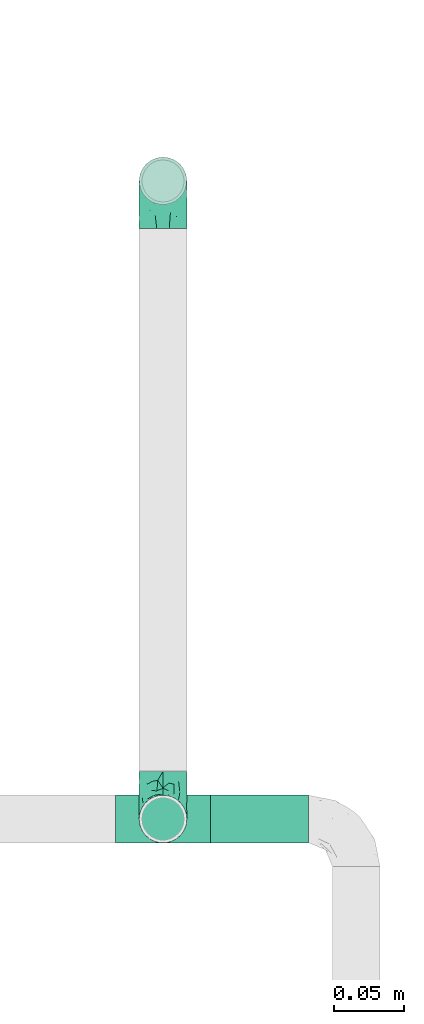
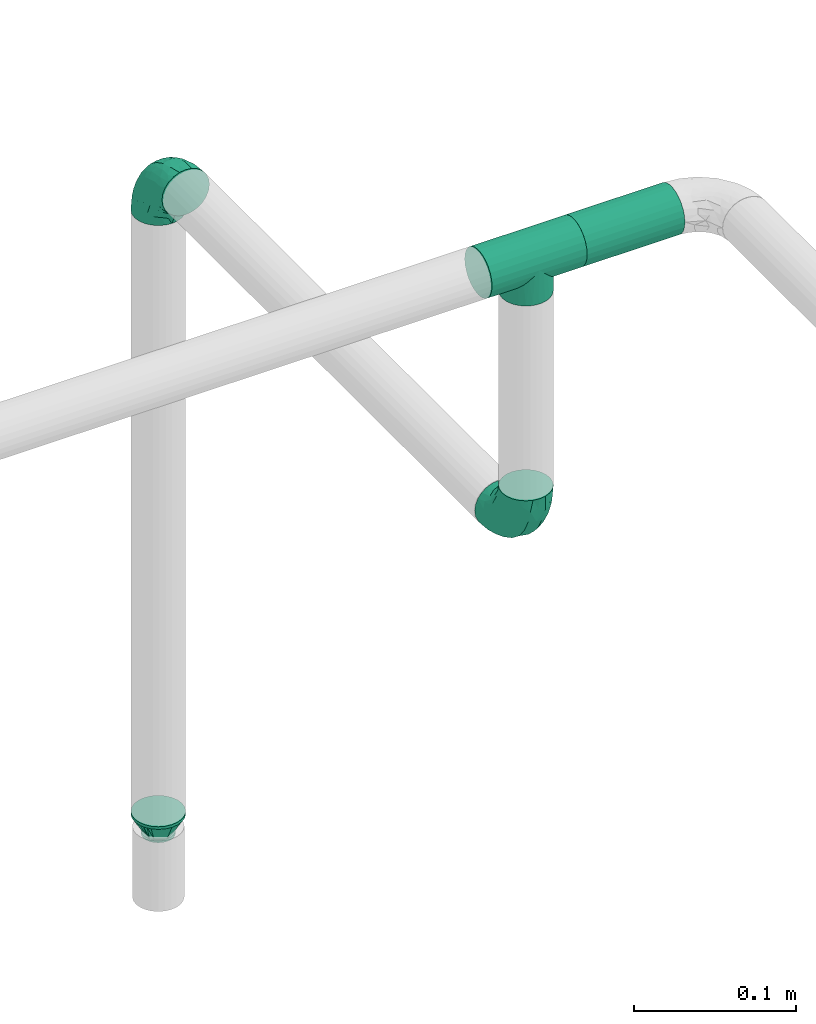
# One storey, part 60 of 94: 4 flow fittings, 1 flow segment.
"""IFC2X3 building model written with IfcOpenShell, lengths in millimetres."""

from ifc_helpers import new_model, entity, si_unit, converted_unit, derived_unit, direction, frame, origin_with_axes, origin_2d_with_axis, place, context, subcontext, project, spatial, hollow_circle, extrude, open_shell, surface_model, source, transform, mapped, type_object, element, save


model = new_model("IFC2X3")

# Units and contexts
model_context = context("Model", 3, precision=0.01, world=frame((0.0, 4.29681676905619e-09, 0.0)), true_north=direction((4.01073788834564e-13, 1.0)))
plan_context = context("Plan", 3, precision=0.01, world=frame((0.0, 4.29681676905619e-09, 0.0)), true_north=direction((4.01073788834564e-13, 1.0)))
body_context = subcontext(model_context, "Body", "Model", "MODEL_VIEW")
ifc_project = project(units=[converted_unit("PLANEANGLEUNIT", "DEGREE", entity("IfcPositiveLengthMeasure", 0.0174532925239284), si_unit("PLANEANGLEUNIT", "RADIAN"), dimensions=[0, 0, 0, 0, 0, 0, 0]), si_unit("AREAUNIT", "SQUARE_METRE"), si_unit("LENGTHUNIT", "METRE", prefix="MILLI"), si_unit("MASSUNIT", "GRAM", prefix="KILO"), si_unit("POWERUNIT", "WATT"), si_unit("PRESSUREUNIT", "PASCAL", prefix="KILO"), si_unit("FORCEUNIT", "NEWTON", prefix="KILO"), si_unit("ELECTRICVOLTAGEUNIT", "VOLT"), si_unit("ELECTRICCURRENTUNIT", "AMPERE"), si_unit("THERMODYNAMICTEMPERATUREUNIT", "DEGREE_CELSIUS"), si_unit("TIMEUNIT", "SECOND"), si_unit("VOLUMEUNIT", "CUBIC_METRE"), derived_unit("LINEARVELOCITYUNIT", [(si_unit("LENGTHUNIT", "METRE"), 1), (si_unit("TIMEUNIT", "SECOND"), -1)]), derived_unit("VOLUMETRICFLOWRATEUNIT", [(si_unit("VOLUMEUNIT", "CUBIC_METRE"), 1), (si_unit("TIMEUNIT", "SECOND"), -1)]), derived_unit("THERMALTRANSMITTANCEUNIT", [(si_unit("POWERUNIT", "WATT"), 1), (si_unit("THERMODYNAMICTEMPERATUREUNIT", "KELVIN"), -1), (si_unit("AREAUNIT", "SQUARE_METRE"), -1)]), derived_unit("SOUNDPRESSUREUNIT", [(si_unit("PRESSUREUNIT", "PASCAL"), 1)])], contexts=[model_context, plan_context])

# Site, building, storey
site_placement = place(None, frame((0.0, -4.29681676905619e-09, 0.0), z_axis=(0.0, 0.0, 1.0), x_axis=(1.0, 0.0, 0.0)))
site = spatial("IfcSite", under=ifc_project, at=site_placement, CompositionType="ELEMENT")
building_placement = place(site_placement, frame((0.0, 4.29681676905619e-09, 0.0), z_axis=(0.0, 0.0, 1.0), x_axis=(1.0, 0.0, 0.0)))
building = spatial("IfcBuilding", under=site, at=building_placement, Name="mc-building", CompositionType="ELEMENT")
storey_placement = place(building_placement, frame((0.0, 0.0, 210900.0), z_axis=(0.0, 0.0, 1.0), x_axis=(1.0, 0.0, 0.0)))
storey = spatial("IfcBuildingStorey", under=building, at=storey_placement, Name="Nivå F", CompositionType="ELEMENT", Elevation=210900.0)

# Flow fittings
pipe_fitting_type_1 = type_object("IfcPipeFittingType", Name="magi_pipe_fe_tee_centric_90_NOR", PredefinedType="JUNCTION")
shared_shape_1 = source(origin_with_axes(), body_context, "Body", "SurfaceModel", [
    surface_model("IfcShellBasedSurfaceModel", [(-33.8, 4.37404, -16.32415), (-33.8, 0.0, -16.9), (-33.8, 16.32415, -4.37404), (-33.8, 8.45, -14.63583), (-33.8, 11.9501, -11.9501), (-33.8, 14.63583, -8.45), (-33.8, -16.9, 0.0), (-33.8, -11.9501, -11.9501), (-33.8, -14.63583, -8.45), (-33.8, -8.45, -14.63583), (-33.8, -4.37404, -16.32415), (-33.8, -16.32415, -4.37404), (-33.8, 14.63583, 8.45), (-33.8, 16.32415, 4.37404), (-33.8, -8.45, 14.63583), (-33.8, 8.45, 14.63583), (-33.8, 11.9501, 11.9501), (-33.8, 4.37404, 16.32415), (-33.8, 0.0, 16.9), (-33.8, -11.9501, 11.9501), (-33.8, -14.63583, 8.45), (-33.8, -16.32415, 4.37404), (-33.8, -4.37404, 16.32415), (-33.8, 16.9, 0.0), (33.8, 4.37404, -16.32415), (33.8, -16.9, 0.0), (33.8, 0.0, -16.9), (33.8, 14.63583, -8.45), (33.8, 8.45, -14.63583), (33.8, 16.32415, -4.37404), (33.8, 11.9501, -11.9501), (33.8, -16.32415, 4.37404), (33.8, -8.45, -14.63583), (33.8, -4.37404, -16.32415), (33.8, -11.9501, -11.9501), (33.8, -14.63583, -8.45), (33.8, -16.32415, -4.37404), (33.8, 16.32415, 4.37404), (33.8, 8.45, 14.63583), (33.8, 14.63583, 8.45), (33.8, 11.9501, 11.9501), (33.8, -8.45, 14.63583), (33.8, 4.37404, 16.32415), (33.8, -14.63583, 8.45), (33.8, -11.9501, 11.9501), (33.8, 0.0, 16.9), (33.8, -4.37404, 16.32415), (33.8, 16.9, 0.0), (16.28698, -16.28698, 4.51047), (16.9, -16.9, 0.0), (14.62704, -14.62704, 8.4652), (9.47213, -9.47213, 13.99602), (12.26343, -12.26343, 11.62834), (-16.9, -16.9, 0.0), (-16.28698, -16.28698, 4.51047), (-14.62704, -14.62704, 8.4652), (-12.26343, -12.26343, 11.62834), (-9.47213, -9.47213, 13.99602), (-6.42894, -6.42894, 15.62942), (6.42894, -6.42894, 15.62942), (3.24522, -3.24522, 16.58549), (0.0, 0.0, 16.9), (-3.24522, -3.24522, 16.58549), (3.24522, -3.24522, -16.58549), (0.0, 0.0, -16.9), (-3.24522, -3.24522, -16.58549), (-6.42894, -6.42894, -15.62942), (6.42894, -6.42894, -15.62942), (9.47213, -9.47213, -13.99602), (12.26343, -12.26343, -11.62834), (14.62704, -14.62704, -8.4652), (16.28698, -16.28698, -4.51047), (-9.47213, -9.47213, -13.99602), (-12.26343, -12.26343, -11.62834), (-16.28698, -16.28698, -4.51047), (-14.62704, -14.62704, -8.4652), (4.37404, -25.35, -16.32415), (-16.9, -25.35, 0.0), (0.0, -25.35, -16.9), (14.63583, -25.35, -8.45), (8.45, -25.35, -14.63583), (16.32415, -25.35, -4.37404), (11.9501, -25.35, -11.9501), (-11.9501, -25.35, -11.9501), (-8.45, -25.35, -14.63583), (-4.37404, -25.35, -16.32415), (-14.63583, -25.35, -8.45), (-16.32415, -25.35, -4.37404), (16.9, -25.35, 0.0), (8.45, -25.35, 14.63583), (16.32415, -25.35, 4.37404), (14.63583, -25.35, 8.45), (-8.45, -25.35, 14.63583), (11.9501, -25.35, 11.9501), (4.37404, -25.35, 16.32415), (-16.32415, -25.35, 4.37404), (-11.9501, -25.35, 11.9501), (-14.63583, -25.35, 8.45), (0.0, -25.35, 16.9), (-4.37404, -25.35, 16.32415)], [open_shell([[[0, 1, 2]], [[3, 0, 4]], [[0, 2, 5]], [[4, 0, 5]], [[6, 2, 1]], [[7, 8, 9]], [[1, 10, 9]], [[11, 6, 8]], [[1, 9, 8]], [[1, 8, 6]], [[6, 12, 2]], [[12, 13, 2]], [[14, 12, 6]], [[12, 14, 15]], [[16, 12, 15]], [[17, 15, 18]], [[19, 14, 20]], [[21, 20, 14]], [[22, 18, 14]], [[14, 6, 21]], [[14, 18, 15]], [[23, 2, 13]], [[24, 25, 26]], [[27, 24, 28]], [[27, 29, 24]], [[27, 28, 30]], [[31, 25, 24]], [[26, 32, 33]], [[26, 34, 32]], [[35, 25, 36]], [[35, 34, 26]], [[25, 35, 26]], [[24, 29, 31]], [[29, 37, 38]], [[38, 37, 39]], [[38, 31, 29]], [[38, 39, 40]], [[41, 38, 42]], [[43, 41, 44]], [[41, 43, 31]], [[41, 45, 46]], [[41, 31, 38]], [[42, 45, 41]], [[29, 47, 37]], [[31, 43, 48]], [[25, 31, 49]], [[49, 31, 48]], [[43, 50, 48]], [[44, 41, 51]], [[50, 43, 52]], [[51, 52, 44]], [[52, 43, 44]], [[53, 54, 21]], [[53, 21, 6]], [[21, 54, 20]], [[54, 55, 20]], [[56, 57, 19]], [[19, 20, 56]], [[19, 57, 14]], [[56, 20, 55]], [[14, 57, 58]], [[51, 41, 59]], [[60, 45, 61]], [[59, 46, 60]], [[46, 59, 41]], [[60, 46, 45]], [[61, 45, 42]], [[39, 37, 13]], [[16, 38, 40]], [[12, 40, 39]], [[42, 38, 15]], [[23, 37, 47]], [[62, 61, 18]], [[62, 22, 58]], [[22, 62, 18]], [[58, 22, 14]], [[61, 17, 18]], [[42, 17, 61]], [[15, 17, 42]], [[15, 38, 16]], [[12, 16, 40]], [[13, 12, 39]], [[37, 23, 13]], [[5, 27, 30]], [[23, 47, 29]], [[30, 28, 3]], [[27, 2, 29]], [[26, 33, 63]], [[26, 64, 24]], [[64, 26, 63]], [[28, 24, 0]], [[64, 0, 24]], [[4, 30, 3]], [[2, 27, 5]], [[5, 30, 4]], [[2, 23, 29]], [[65, 66, 10]], [[1, 0, 64]], [[1, 65, 10]], [[66, 9, 10]], [[0, 3, 28]], [[1, 64, 65]], [[63, 33, 67]], [[32, 34, 68]], [[69, 68, 34]], [[35, 70, 69]], [[69, 34, 35]], [[32, 68, 67]], [[36, 25, 49]], [[36, 71, 35]], [[71, 36, 49]], [[35, 71, 70]], [[72, 9, 66]], [[72, 7, 9]], [[7, 72, 73]], [[7, 73, 8]], [[74, 53, 11]], [[75, 74, 8]], [[74, 11, 8]], [[11, 53, 6]], [[75, 8, 73]], [[32, 67, 33]], [[76, 77, 78]], [[79, 76, 80]], [[79, 81, 76]], [[79, 80, 82]], [[77, 76, 81]], [[78, 83, 84]], [[84, 85, 78]], [[86, 77, 87]], [[83, 78, 86]], [[77, 86, 78]], [[81, 88, 77]], [[89, 88, 90]], [[89, 90, 91]], [[92, 77, 89]], [[89, 91, 93]], [[92, 89, 94]], [[95, 96, 97]], [[96, 95, 92]], [[92, 98, 99]], [[95, 77, 92]], [[94, 98, 92]], [[89, 77, 88]], [[77, 95, 53]], [[54, 53, 95]], [[97, 96, 56]], [[96, 92, 57]], [[95, 97, 54]], [[58, 92, 99]], [[55, 54, 97]], [[56, 55, 97]], [[58, 57, 92]], [[98, 61, 62]], [[58, 99, 62]], [[56, 96, 57]], [[62, 99, 98]], [[94, 60, 98]], [[89, 59, 94]], [[91, 90, 48]], [[52, 93, 91]], [[93, 51, 89]], [[49, 90, 88]], [[59, 60, 94]], [[51, 59, 89]], [[49, 48, 90]], [[50, 52, 91]], [[48, 50, 91]], [[51, 93, 52]], [[98, 60, 61]], [[88, 81, 49]], [[71, 49, 81]], [[79, 82, 69]], [[82, 80, 68]], [[81, 79, 71]], [[67, 80, 76]], [[70, 71, 79]], [[69, 70, 79]], [[67, 68, 80]], [[78, 64, 63]], [[67, 76, 63]], [[69, 82, 68]], [[63, 76, 78]], [[85, 65, 78]], [[84, 66, 85]], [[86, 87, 74]], [[86, 73, 83]], [[72, 84, 83]], [[53, 87, 77]], [[66, 65, 85]], [[72, 66, 84]], [[53, 74, 87]], [[75, 73, 86]], [[74, 75, 86]], [[72, 83, 73]], [[78, 65, 64]]])]),
])
flow_fitting_1_placement = place(storey_placement, frame((728000.0, 436948.06941, 3500.0), z_axis=(0.0, -1.0, 0.0), x_axis=(1.0, 0.0, 0.0)))
element("IfcFlowFitting", 1, at=flow_fitting_1_placement, inside=storey, type_object=pipe_fitting_type_1, Name="magi_pipe_fe_tee_centric_90_NOR", context=body_context, shape_type="MappedRepresentation", body=[
    mapped(shared_shape_1, transform((0.0, 0.0, 0.0), scale=1.0)),
])
pipe_fitting_type_2 = type_object("IfcPipeFittingType", Name="magi_pipe_fe_elbow_short_001", PredefinedType="BEND")
shared_shape_2 = source(origin_with_axes(), body_context, "Body", "SurfaceModel", [
    surface_model("IfcShellBasedSurfaceModel", [(-33.8, 8.45, -14.63583), (-33.8, 4.37404, -16.32415), (-33.8, 11.9501, -11.9501), (-33.8, -11.9501, -11.9501), (-33.8, -14.63583, -8.45), (-33.8, -8.45, -14.63583), (-33.8, 0.0, -16.9), (-33.8, -4.37404, -16.32415), (-33.8, -4.37404, 16.32415), (-33.8, 0.0, 16.9), (-33.8, -8.45, 14.63583), (-33.8, 16.32415, -4.37404), (-33.8, 14.63583, -8.45), (-33.8, -16.32415, -4.37404), (-33.8, -16.9, 0.0), (-33.8, -16.32415, 4.37404), (-33.8, 11.9501, 11.9501), (-33.8, 14.63583, 8.45), (-33.8, 16.32415, 4.37404), (-33.8, 4.37404, 16.32415), (-33.8, 8.45, 14.63583), (-33.8, -14.63583, 8.45), (-33.8, -11.9501, 11.9501), (-33.8, 16.9, 0.0), (-11.9501, 33.8, -11.9501), (0.0, 33.8, -16.9), (-4.37404, 33.8, -16.32415), (-8.45, 33.8, -14.63583), (-14.63583, 33.8, -8.45), (-16.32415, 33.8, -4.37404), (14.63583, 33.8, -8.45), (8.45, 33.8, 14.63583), (16.32415, 33.8, -4.37404), (8.45, 33.8, -14.63583), (11.9501, 33.8, -11.9501), (4.37404, 33.8, -16.32415), (16.32415, 33.8, 4.37404), (16.9, 33.8, 0.0), (-11.9501, 33.8, 11.9501), (-16.32415, 33.8, 4.37404), (-14.63583, 33.8, 8.45), (-8.45, 33.8, 14.63583), (-4.37404, 33.8, 16.32415), (11.9501, 33.8, 11.9501), (14.63583, 33.8, 8.45), (0.0, 33.8, 16.9), (4.37404, 33.8, 16.32415), (-16.9, 33.8, 0.0), (-24.79389, -13.12945, 9.48721), (-22.19287, -9.75018, 12.59315), (-24.09897, -14.97035, 0.0), (-14.93934, -10.76256, 8.5297), (-22.46095, -14.75051, 5.27077), (14.75051, 22.46094, 5.27077), (11.9251, 13.23888, 4.33236), (13.04069, 14.39795, 0.0), (7.71387, 13.68847, 11.55891), (9.75018, 22.19287, 12.59315), (4.10169, 13.0571, 14.04018), (-24.84007, -6.39063, 15.2048), (-25.81779, -2.23879, 16.61097), (-23.66549, 2.59054, 16.87119), (-26.50418, 14.06512, 11.08152), (-24.21253, 17.66365, 7.72657), (-29.58514, 15.86957, 7.00283), (-6.17382, -7.5455, 0.0), (-13.23888, -11.9251, 4.33236), (-14.39795, -13.04069, 0.0), (-17.81434, 18.87373, 11.97104), (-6.30846, 29.15138, 15.82987), (-2.31622, 25.28002, 16.85849), (-29.23923, 10.23435, 13.77053), (-1.45439, -2.85688, 7.61475), (-0.28326, 0.34872, 10.09509), (-5.74484, -4.04709, 10.4122), (-4.41137, 11.31918, 16.59407), (-8.39727, 3.10034, 15.7812), (-1.72649, 9.1306, 15.53089), (-17.39909, 24.75344, 7.64977), (-26.19233, 20.0512, 0.0), (-28.14518, 17.29657, 4.25857), (-26.05147, 6.6281, 15.96447), (-5.87354, 16.61944, 16.86968), (-12.51807, 12.51807, 16.48937), (-10.06312, 7.38516, 16.81295), (-3.01882, 3.01882, 13.81718), (-13.0571, -4.10169, 14.04018), (-16.82553, -0.15166, 16.38038), (10.76256, 14.93934, 8.5297), (13.12945, 24.79389, 9.48721), (6.39063, 24.84007, 15.2048), (2.23879, 25.81779, 16.61097), (-13.68847, -7.71387, 11.55891), (14.97035, 24.09897, 0.0), (-7.30894, 22.89991, 16.09489), (-10.67958, 26.17414, 14.008), (-12.78295, 18.26924, 15.06066), (-13.88562, 22.45231, 12.93244), (-18.04944, 15.16501, 14.04434), (-23.11658, 20.08178, 4.02986), (-21.84989, 21.84989, 0.0), (-18.55817, 25.48277, 3.93065), (-13.95142, 26.94732, 11.03289), (-18.57098, 7.23906, 16.59756), (-16.58335, 4.14122, 16.89279), (-17.96666, 11.46709, 15.63151), (-9.84453, 17.54304, 16.18938), (0.15166, 16.82553, 16.38038), (-23.27207, 11.47201, 14.23154), (3.84842, 5.86994, 10.70473), (-8.0212, -7.54413, 7.93275), (1.00345, -2.19508, 4.57414), (5.13203, 3.01004, 5.90201), (5.24161, 1.7543, 2.53265), (8.70457, 7.04947, 3.99182), (-20.0512, 26.19233, 0.0), (8.4852, 8.76699, 7.09296), (-4.55488, -6.72064, 4.90681), (2.05031, -2.05031, 0.0), (7.5455, 6.17382, 0.0), (-26.75399, 2.1369, -16.845), (-14.61995, 24.73803, -11.27736), (-28.45274, -13.45335, -9.81895), (-26.00469, 6.63555, -15.96645), (-23.06726, 20.04573, -4.26202), (-13.80647, -4.26506, -14.17873), (-14.67501, -0.21081, -16.07388), (-6.7902, -0.2828, -13.8478), (-24.53586, 11.08096, -14.13417), (-26.72048, 14.00837, -11.05776), (10.0967, 24.44989, -12.75976), (5.83237, 21.40218, -15.03047), (6.66249, 28.54238, -15.38093), (-20.38182, 15.48705, -12.74596), (12.53268, 21.23441, -9.15363), (12.54494, 15.67504, -5.54878), (9.7522, 12.89279, -8.66343), (-15.65186, 19.64213, -13.01327), (-12.03528, 20.66498, -14.67665), (-15.61907, 15.61906, -14.83879), (-25.56551, -15.26206, 0.0), (-24.65452, -15.12934, -5.50955), (13.45335, 28.45274, -9.81895), (15.12934, 24.65452, -5.50955), (-7.35442, -8.31014, -5.65563), (-15.67504, -12.54494, -5.54878), (-24.44989, -10.0967, -12.75976), (0.16522, 0.41303, -9.71728), (-5.70658, -5.33066, -8.89288), (-5.13869, -2.37198, -11.53565), (-21.23441, -12.53268, -9.15363), (0.71146, 7.93863, -14.09382), (0.21081, 14.67501, -16.07388), (3.49291, 14.42772, -14.76381), (-24.89911, -2.13088, -16.591), (-28.54238, -6.66249, -15.38093), (-18.44386, -7.71663, -13.26957), (2.13088, 24.89911, -16.591), (-28.64342, 17.44413, -2.89318), (1.70017, -1.28722, -5.09504), (-16.57067, 26.81947, -7.36596), (-17.69055, 27.4263, -3.76405), (-12.89279, -9.7522, -8.66343), (-5.96611, 5.96611, -15.95814), (-20.53709, 20.09345, -8.28985), (-2.1369, 26.75399, -16.845), (-6.89872, 24.58781, -16.02578), (-10.60739, 26.53157, -13.98044), (-21.40218, -5.83237, -15.03047), (2.93192, 5.89627, -11.55917), (6.89393, 12.61842, -11.82233), (5.58056, 5.95325, -8.79455), (-3.99512, 18.61798, -16.89635), (8.31014, 7.35442, -5.65563), (-9.1383, 9.86148, -16.89041), (-9.99983, 16.02119, -16.39699), (-16.68576, 9.78031, -16.34199), (-27.01915, 16.61158, -7.12979), (15.26206, 25.56551, 0.0), (-18.61798, 3.99512, -16.89635), (-19.37495, 27.82495, 0.0), (-12.61842, -6.89393, -11.82233), (-18.84705, 19.14018, -10.96545)], [open_shell([[[0, 1, 2]], [[3, 4, 5]], [[6, 7, 5]], [[8, 9, 10]], [[1, 6, 2]], [[11, 12, 2]], [[4, 2, 6]], [[2, 13, 10]], [[5, 4, 6]], [[2, 4, 13]], [[14, 15, 13]], [[11, 2, 16]], [[11, 17, 18]], [[11, 16, 17]], [[19, 20, 16]], [[16, 2, 10]], [[19, 16, 10]], [[21, 22, 15]], [[22, 13, 15]], [[22, 10, 13]], [[10, 9, 19]], [[11, 18, 23]], [[24, 25, 26]], [[24, 26, 27]], [[24, 28, 29]], [[25, 24, 30]], [[31, 32, 24]], [[33, 30, 34]], [[33, 35, 25]], [[25, 30, 33]], [[32, 30, 24]], [[32, 36, 37]], [[38, 24, 29]], [[39, 40, 29]], [[40, 38, 29]], [[38, 41, 42]], [[38, 31, 24]], [[31, 38, 42]], [[36, 43, 44]], [[36, 32, 43]], [[31, 45, 46]], [[32, 31, 43]], [[42, 45, 31]], [[39, 29, 47]], [[22, 48, 49]], [[15, 14, 50]], [[51, 48, 52]], [[53, 54, 55]], [[48, 22, 21]], [[15, 52, 21]], [[56, 57, 58]], [[49, 10, 22]], [[49, 59, 10]], [[9, 60, 61]], [[62, 63, 64]], [[65, 66, 67]], [[57, 43, 31]], [[62, 68, 63]], [[42, 69, 70]], [[20, 71, 16]], [[8, 60, 9]], [[72, 73, 74]], [[75, 76, 77]], [[16, 62, 17]], [[40, 39, 78]], [[79, 23, 80]], [[64, 18, 17]], [[9, 61, 19]], [[19, 81, 20]], [[82, 83, 84]], [[74, 85, 86]], [[59, 86, 87]], [[88, 89, 57]], [[90, 31, 46]], [[44, 53, 36]], [[46, 45, 91]], [[54, 53, 88]], [[44, 89, 53]], [[92, 86, 49]], [[89, 44, 43]], [[10, 59, 8]], [[53, 55, 93]], [[93, 36, 53]], [[66, 52, 67]], [[94, 82, 70]], [[95, 96, 94]], [[97, 98, 96]], [[79, 99, 100]], [[41, 38, 95]], [[101, 100, 99]], [[68, 78, 63]], [[42, 41, 69]], [[23, 18, 80]], [[95, 94, 69]], [[78, 101, 99]], [[38, 102, 95]], [[70, 45, 42]], [[97, 95, 102]], [[15, 50, 52]], [[90, 57, 31]], [[57, 90, 58]], [[81, 19, 61]], [[103, 104, 84]], [[105, 81, 103]], [[38, 40, 102]], [[106, 96, 83]], [[94, 106, 82]], [[91, 70, 107]], [[71, 62, 16]], [[62, 108, 98]], [[86, 59, 49]], [[67, 52, 50]], [[60, 59, 87]], [[92, 49, 51]], [[86, 85, 76]], [[91, 90, 46]], [[37, 36, 93]], [[107, 77, 58]], [[107, 58, 90]], [[58, 85, 109]], [[110, 74, 92]], [[72, 74, 110]], [[66, 51, 52]], [[72, 111, 112]], [[113, 114, 112]], [[56, 88, 57]], [[52, 48, 21]], [[49, 48, 51]], [[57, 89, 43]], [[53, 89, 88]], [[103, 81, 61]], [[71, 81, 108]], [[18, 64, 80]], [[63, 78, 99]], [[47, 115, 101]], [[101, 115, 100]], [[40, 78, 102]], [[68, 102, 78]], [[97, 96, 95]], [[105, 98, 108]], [[103, 84, 83]], [[107, 70, 82]], [[76, 84, 87]], [[82, 84, 75]], [[70, 91, 45]], [[90, 91, 107]], [[59, 60, 8]], [[61, 60, 87]], [[73, 85, 74]], [[109, 112, 116]], [[103, 61, 104]], [[105, 103, 83]], [[96, 105, 83]], [[81, 105, 108]], [[96, 98, 105]], [[62, 98, 68]], [[61, 87, 104]], [[87, 84, 104]], [[86, 76, 87]], [[77, 76, 85]], [[58, 77, 85]], [[75, 77, 107]], [[82, 75, 107]], [[76, 75, 84]], [[81, 71, 20]], [[62, 71, 108]], [[95, 69, 41]], [[70, 69, 94]], [[62, 64, 17]], [[80, 63, 99]], [[63, 80, 64]], [[80, 99, 79]], [[66, 65, 117]], [[110, 66, 117]], [[112, 114, 116]], [[118, 117, 65]], [[110, 92, 51]], [[112, 111, 113]], [[119, 55, 54]], [[74, 86, 92]], [[58, 109, 56]], [[116, 56, 109]], [[66, 110, 51]], [[72, 110, 117]], [[111, 72, 117]], [[73, 112, 109]], [[117, 118, 111]], [[113, 111, 118]], [[118, 119, 113]], [[114, 119, 54]], [[119, 114, 113]], [[116, 54, 88]], [[54, 116, 114]], [[116, 88, 56]], [[112, 73, 72]], [[85, 73, 109]], [[78, 39, 101]], [[47, 101, 39]], [[102, 68, 97]], [[97, 68, 98]], [[82, 106, 83]], [[94, 96, 106]], [[1, 120, 6]], [[28, 24, 121]], [[3, 122, 4]], [[0, 123, 1]], [[100, 124, 79]], [[125, 126, 127]], [[128, 2, 129]], [[130, 131, 132]], [[128, 129, 133]], [[134, 135, 136]], [[137, 138, 139]], [[128, 0, 2]], [[67, 140, 141]], [[134, 142, 143]], [[141, 13, 4]], [[144, 65, 145]], [[146, 3, 5]], [[147, 148, 149]], [[145, 141, 150]], [[151, 152, 153]], [[154, 7, 6]], [[5, 155, 146]], [[150, 146, 156]], [[155, 5, 7]], [[143, 135, 134]], [[35, 157, 25]], [[23, 79, 158]], [[148, 159, 144]], [[160, 161, 29]], [[145, 162, 144]], [[163, 152, 151]], [[29, 28, 160]], [[121, 164, 160]], [[33, 34, 130]], [[25, 165, 26]], [[26, 165, 166]], [[142, 34, 30]], [[24, 27, 167]], [[124, 161, 164]], [[157, 35, 132]], [[155, 154, 168]], [[123, 0, 128]], [[169, 170, 171]], [[172, 157, 152]], [[26, 166, 27]], [[132, 35, 33]], [[142, 130, 34]], [[168, 154, 126]], [[136, 135, 173]], [[133, 137, 139]], [[2, 12, 129]], [[170, 131, 130]], [[30, 32, 143]], [[172, 174, 175]], [[176, 123, 128]], [[158, 177, 11]], [[135, 55, 119]], [[167, 27, 166]], [[175, 166, 172]], [[137, 167, 138]], [[122, 141, 4]], [[140, 14, 13]], [[32, 37, 178]], [[170, 130, 134]], [[152, 157, 131]], [[165, 157, 172]], [[153, 170, 151]], [[152, 163, 174]], [[168, 125, 156]], [[122, 146, 150]], [[120, 154, 6]], [[179, 174, 126]], [[179, 126, 154]], [[126, 163, 127]], [[162, 145, 150]], [[140, 13, 141]], [[32, 178, 143]], [[55, 143, 178]], [[177, 129, 12]], [[128, 133, 139]], [[176, 128, 139]], [[120, 123, 179]], [[121, 160, 28]], [[161, 100, 180]], [[166, 175, 138]], [[121, 24, 167]], [[161, 47, 29]], [[79, 124, 158]], [[124, 164, 177]], [[161, 124, 100]], [[136, 171, 170]], [[127, 163, 151]], [[147, 171, 159]], [[148, 144, 162]], [[127, 151, 169]], [[127, 181, 125]], [[129, 177, 164]], [[12, 11, 177]], [[159, 65, 144]], [[67, 141, 145]], [[143, 55, 135]], [[135, 119, 173]], [[123, 120, 1]], [[154, 120, 179]], [[157, 165, 25]], [[166, 165, 172]], [[172, 152, 174]], [[176, 139, 175]], [[126, 174, 163]], [[176, 174, 179]], [[174, 176, 175]], [[123, 176, 179]], [[150, 181, 162]], [[127, 149, 181]], [[181, 148, 162]], [[159, 148, 147]], [[171, 136, 173]], [[170, 134, 136]], [[159, 171, 173]], [[171, 147, 169]], [[169, 147, 149]], [[151, 170, 169]], [[164, 182, 129]], [[182, 121, 137]], [[181, 149, 148]], [[169, 149, 127]], [[182, 137, 133]], [[167, 137, 121]], [[166, 138, 167]], [[175, 139, 138]], [[129, 182, 133]], [[121, 182, 164]], [[161, 160, 164]], [[47, 161, 180]], [[177, 158, 124]], [[23, 158, 11]], [[130, 132, 33]], [[157, 132, 131]], [[143, 142, 30]], [[130, 142, 134]], [[154, 155, 7]], [[146, 155, 168]], [[146, 122, 3]], [[141, 122, 150]], [[152, 131, 153]], [[159, 119, 118]], [[67, 145, 65]], [[170, 153, 131]], [[119, 159, 173]], [[159, 118, 65]], [[156, 125, 181]], [[126, 125, 168]], [[150, 156, 181]], [[168, 156, 146]]])]),
])
for number, where, z_axis, x_axis, name in (
    (2, (728000.0, 437400.7, 3294.49074000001), (1.0, 0.0, 0.0), (0.0, 0.0, 1.0), "magi_pipe_fe_elbow_short_001"),
    (3, (728000.0, 436948.06941, 3294.49074000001), (1.0, 0.0, 0.0), (0.0, 0.0, -1.0), "magi_pipe_fe_elbow_short_001"),
):
    element("IfcFlowFitting", number, at=place(storey_placement, frame(where, z_axis=z_axis, x_axis=x_axis)), inside=storey, type_object=pipe_fitting_type_2, Name=name, context=body_context, shape_type="MappedRepresentation", body=[
        mapped(shared_shape_2, transform((0.0, 0.0, 0.0), scale=1.0)),
    ])
pipe_fitting_type_3 = type_object("IfcPipeFittingType", Name="magi_pipe_fe_reducer_centric_short_NOR", PredefinedType="TRANSITION")
shared_shape_3 = source(origin_with_axes(), body_context, "Body", "SurfaceModel", [
    surface_model("IfcShellBasedSurfaceModel", [(14.4, -11.9501, -11.9501), (14.4, -8.45, -14.63583), (14.4, -4.37404, -16.32415), (14.4, 8.45, -14.63583), (14.4, 16.9, 0.0), (14.4, -14.63583, -8.45), (14.4, -16.32415, -4.37404), (14.4, -4.37404, 16.32415), (14.4, 4.37404, -16.32415), (14.4, 0.0, -16.9), (14.4, 14.63583, -8.45), (14.4, 16.32415, -4.37404), (14.4, 11.9501, -11.9501), (14.4, -16.32415, 4.37404), (14.4, -16.9, 0.0), (14.4, -11.9501, 11.9501), (14.4, -14.63583, 8.45), (14.4, -8.45, 14.63583), (14.4, 0.0, 16.9), (14.4, 16.32415, 4.37404), (14.4, 14.63583, 8.45), (14.4, 11.9501, 11.9501), (14.4, 8.45, 14.63583), (14.4, 4.37404, 16.32415), (12.4, 0.0, 16.9), (12.4, 14.63583, 8.45), (12.4, -4.37404, 16.32415), (12.4, -8.45, 14.63583), (12.4, -16.32415, 4.37404), (12.4, -14.63583, 8.45), (12.4, -11.9501, 11.9501), (12.4, 11.9501, 11.9501), (12.4, 8.45, 14.63583), (12.4, 4.37404, 16.32415), (12.4, 16.32415, 4.37404), (12.4, 16.9, 0.0), (12.4, 16.32415, -4.37404), (12.4, 8.45, -14.63583), (12.4, -11.9501, -11.9501), (12.4, -16.32415, -4.37404), (12.4, -14.63583, -8.45), (12.4, -4.37404, -16.32415), (12.4, -8.45, -14.63583), (12.4, 14.63583, -8.45), (12.4, 11.9501, -11.9501), (12.4, 4.37404, -16.32415), (12.4, 0.0, -16.9), (12.4, -16.9, 0.0), (-2.0, 0.0, 10.7), (-2.0, 10.33541, -2.76936), (-2.0, -2.76936, 10.33541), (-2.0, -5.35, 9.26647), (-2.0, -10.33541, 2.76936), (-2.0, -9.26647, 5.35), (-2.0, -7.56604, 7.56604), (-2.0, 10.33541, 2.76936), (-2.0, 5.35, 9.26647), (-2.0, 7.56604, 7.56604), (-2.0, 2.76936, 10.33541), (-2.0, 9.26647, 5.35), (-2.0, 10.7, 0.0), (-2.0, -10.33541, -2.76936), (-2.0, -9.26647, -5.35), (-2.0, -7.56604, -7.56604), (-2.0, -5.35, -9.26647), (-2.0, -2.76936, -10.33541), (-2.0, 9.26647, -5.35), (-2.0, 7.56604, -7.56604), (-2.0, 5.35, -9.26647), (-2.0, 2.76936, -10.33541), (-2.0, 0.0, -10.7), (-2.0, -10.7, 0.0), (0.0, -2.76936, -10.33541), (0.0, 0.0, -10.7), (0.0, -5.35, -9.26647), (0.0, -7.56604, -7.56604), (0.0, -10.33541, -2.76936), (0.0, 10.33541, -2.76936), (0.0, -9.26647, -5.35), (0.0, 0.0, 10.7), (0.0, 2.76936, -10.33541), (0.0, 5.35, -9.26647), (0.0, 9.26647, -5.35), (0.0, 7.56604, -7.56604), (0.0, -10.33541, 2.76936), (0.0, -10.7, 0.0), (0.0, -7.56604, 7.56604), (0.0, -9.26647, 5.35), (0.0, -2.76936, 10.33541), (0.0, -5.35, 9.26647), (0.0, 7.56604, 7.56604), (0.0, 9.26647, 5.35), (0.0, 10.33541, 2.76936), (0.0, 10.7, 0.0), (0.0, 5.35, 9.26647), (0.0, 2.76936, 10.33541), (12.4, -2.98753, -15.66253), (12.4, -5.97505, -14.42505), (0.0, -2.675, -9.26647), (12.4, 15.66253, -2.98753), (12.4, 14.42505, -5.97505), (0.0, 9.3625, -2.31662), (0.0, 2.675, -9.26647), (12.4, 5.97505, -14.42505), (12.4, 8.96258, -13.18758), (0.0, 6.6875, -6.94985), (12.4, -14.42505, -5.97505), (12.4, -15.66253, -2.98753), (0.0, -9.3625, -2.31662), (0.0, 8.025, -4.63324), (12.4, 13.18758, -8.96258), (12.4, 2.98753, -15.66253), (0.0, -6.6875, -6.94985), (12.4, -13.18758, -8.96258), (12.4, -8.96258, -13.18758), (0.0, 0.0, -9.26647), (0.0, -8.025, -4.63324), (12.4, 2.98753, 15.66253), (12.4, 5.97505, 14.42505), (0.0, 2.675, 9.26647), (12.4, -15.66253, 2.98753), (12.4, -14.42505, 5.97505), (0.0, -9.3625, 2.31662), (0.0, -2.675, 9.26647), (12.4, -5.97505, 14.42505), (12.4, -8.96258, 13.18758), (0.0, -6.6875, 6.94985), (12.4, 14.42505, 5.97505), (12.4, 15.66253, 2.98753), (0.0, 9.3625, 2.31662), (0.0, -8.025, 4.63324), (12.4, -13.18758, 8.96258), (12.4, -2.98753, 15.66253), (0.0, 6.6875, 6.94985), (12.4, 13.18758, 8.96258), (12.4, 8.96258, 13.18758), (0.0, 0.0, 9.26647), (0.0, 8.025, 4.63324)], [open_shell([[[0, 1, 2]], [[0, 2, 3]], [[3, 4, 0]], [[5, 0, 6]], [[0, 7, 6]], [[8, 3, 9]], [[3, 2, 9]], [[10, 11, 12]], [[3, 12, 11]], [[11, 4, 3]], [[13, 14, 6]], [[15, 16, 13]], [[7, 15, 13]], [[0, 4, 7]], [[17, 15, 7]], [[18, 7, 4]], [[19, 20, 18]], [[18, 4, 19]], [[21, 22, 20]], [[22, 18, 20]], [[23, 18, 22]], [[13, 6, 7]], [[24, 25, 26]], [[27, 26, 28]], [[28, 29, 30]], [[27, 28, 30]], [[28, 26, 25]], [[31, 25, 32]], [[24, 33, 32]], [[32, 25, 24]], [[28, 25, 34]], [[35, 36, 34]], [[37, 28, 34]], [[38, 39, 28]], [[40, 39, 38]], [[41, 42, 38]], [[38, 28, 37]], [[38, 37, 41]], [[43, 44, 36]], [[37, 36, 44]], [[45, 46, 37]], [[37, 34, 36]], [[37, 46, 41]], [[47, 28, 39]], [[35, 11, 36]], [[36, 10, 43]], [[37, 44, 3]], [[12, 44, 43]], [[45, 37, 8]], [[11, 10, 36]], [[35, 4, 11]], [[37, 3, 8]], [[3, 44, 12]], [[43, 10, 12]], [[45, 8, 9]], [[9, 46, 45]], [[46, 2, 41]], [[41, 1, 42]], [[40, 38, 5]], [[0, 38, 42]], [[39, 40, 6]], [[1, 0, 42]], [[41, 2, 1]], [[39, 6, 14]], [[6, 40, 5]], [[38, 0, 5]], [[39, 14, 47]], [[9, 2, 46]], [[47, 13, 28]], [[28, 16, 29]], [[27, 30, 17]], [[15, 30, 29]], [[26, 27, 7]], [[13, 16, 28]], [[47, 14, 13]], [[27, 17, 7]], [[17, 30, 15]], [[29, 16, 15]], [[26, 7, 18]], [[18, 24, 26]], [[24, 23, 33]], [[33, 22, 32]], [[25, 31, 20]], [[21, 31, 32]], [[34, 25, 19]], [[22, 21, 32]], [[33, 23, 22]], [[34, 19, 4]], [[19, 25, 20]], [[31, 21, 20]], [[34, 4, 35]], [[18, 23, 24]], [[48, 49, 50]], [[50, 49, 51]], [[52, 53, 54]], [[51, 52, 54]], [[49, 48, 55]], [[56, 57, 58]], [[57, 48, 58]], [[59, 55, 57]], [[57, 55, 48]], [[60, 49, 55]], [[49, 52, 51]], [[61, 52, 49]], [[62, 61, 63]], [[64, 61, 49]], [[63, 61, 64]], [[65, 64, 49]], [[66, 67, 49]], [[68, 49, 67]], [[69, 70, 68]], [[65, 49, 68]], [[68, 70, 65]], [[71, 52, 61]], [[72, 73, 74]], [[75, 74, 76]], [[76, 74, 77]], [[78, 75, 76]], [[76, 77, 79]], [[80, 81, 73]], [[81, 74, 73]], [[82, 77, 83]], [[81, 83, 77]], [[81, 77, 74]], [[84, 85, 76]], [[86, 87, 84]], [[88, 86, 84]], [[88, 76, 79]], [[89, 86, 88]], [[77, 90, 79]], [[91, 90, 92]], [[92, 77, 93]], [[94, 95, 90]], [[90, 77, 92]], [[79, 90, 95]], [[84, 76, 88]], [[60, 77, 49]], [[49, 82, 66]], [[68, 67, 81]], [[83, 67, 66]], [[69, 68, 80]], [[77, 82, 49]], [[60, 93, 77]], [[68, 81, 80]], [[81, 67, 83]], [[66, 82, 83]], [[69, 80, 73]], [[73, 70, 69]], [[70, 72, 65]], [[65, 74, 64]], [[62, 63, 78]], [[75, 63, 64]], [[61, 62, 76]], [[74, 75, 64]], [[65, 72, 74]], [[61, 76, 85]], [[76, 62, 78]], [[63, 75, 78]], [[61, 85, 71]], [[73, 72, 70]], [[71, 84, 52]], [[52, 87, 53]], [[51, 54, 89]], [[86, 54, 53]], [[50, 51, 88]], [[84, 87, 52]], [[71, 85, 84]], [[51, 89, 88]], [[89, 54, 86]], [[53, 87, 86]], [[50, 88, 79]], [[79, 48, 50]], [[48, 95, 58]], [[58, 94, 56]], [[59, 57, 91]], [[90, 57, 56]], [[55, 59, 92]], [[94, 90, 56]], [[58, 95, 94]], [[55, 92, 93]], [[92, 59, 91]], [[57, 90, 91]], [[55, 93, 60]], [[79, 95, 48]], [[31, 24, 44]], [[24, 30, 47]], [[44, 35, 31]], [[47, 46, 44]], [[46, 47, 38]], [[24, 47, 44]], [[89, 94, 93]], [[85, 89, 74]], [[81, 74, 93]], [[89, 93, 74]], [[96, 97, 98]], [[99, 100, 101]], [[102, 81, 103]], [[93, 35, 99]], [[104, 105, 44]], [[104, 81, 105]], [[106, 107, 108]], [[109, 110, 105]], [[103, 111, 102]], [[74, 98, 97]], [[112, 38, 113]], [[74, 114, 112]], [[107, 47, 85]], [[98, 115, 96]], [[102, 111, 115]], [[104, 103, 81]], [[113, 116, 112]], [[115, 111, 46]], [[99, 101, 93]], [[100, 109, 101]], [[108, 116, 106]], [[108, 107, 85]], [[44, 105, 110]], [[109, 100, 110]], [[115, 46, 96]], [[113, 106, 116]], [[38, 112, 114]], [[74, 97, 114]], [[117, 118, 119]], [[120, 121, 122]], [[123, 89, 124]], [[85, 47, 120]], [[125, 126, 30]], [[125, 89, 126]], [[127, 128, 129]], [[130, 131, 126]], [[124, 132, 123]], [[94, 119, 118]], [[133, 31, 134]], [[94, 135, 133]], [[128, 35, 93]], [[119, 136, 117]], [[123, 132, 136]], [[125, 124, 89]], [[134, 137, 133]], [[136, 132, 24]], [[120, 122, 85]], [[121, 130, 122]], [[129, 137, 127]], [[129, 128, 93]], [[30, 126, 131]], [[130, 121, 131]], [[136, 24, 117]], [[134, 127, 137]], [[31, 133, 135]], [[94, 118, 135]]])]),
])
flow_fitting_2_placement = place(storey_placement, frame((728000.0, 437400.7, 2794.49074000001), z_axis=(1.0, 0.0, 0.0), x_axis=(0.0, 0.0, 1.0)))
element("IfcFlowFitting", 4, at=flow_fitting_2_placement, inside=storey, type_object=pipe_fitting_type_3, Name="magi_pipe_fe_reducer_centric_short_NOR", context=body_context, shape_type="MappedRepresentation", body=[
    mapped(shared_shape_3, transform((0.0, 0.0, 0.0), scale=1.0)),
])

# Flow segment
pipe_segment_type = type_object("IfcPipeSegmentType", Name="Stålrør normaltykke", PredefinedType="RIGIDSEGMENT")
shared_shape_4 = source(origin_with_axes(), body_context, "Body", "SweptSolid", [
    extrude(hollow_circle(Radius=16.9, WallThickness=2.0, at=origin_2d_with_axis()), frame((0.0, 0.0, 0.0), z_axis=(1.0, 0.0, 0.0), x_axis=(0.0, 1.0, 0.0)), (0.0, 0.0, 1.0), 69.5),
])
flow_segment_placement = place(storey_placement, frame((728103.30222, 436948.06941, 3500.0), z_axis=(0.0, 0.0, 1.0), x_axis=(-1.0, 0.0, 0.0)))
element("IfcFlowSegment", 5, at=flow_segment_placement, inside=storey, type_object=pipe_segment_type, Name="Stålrør normaltykke", context=body_context, shape_type="MappedRepresentation", body=[
    mapped(shared_shape_4, transform((0.0, 0.0, 0.0), scale=1.0)),
])

save(model, "model.ifc")
